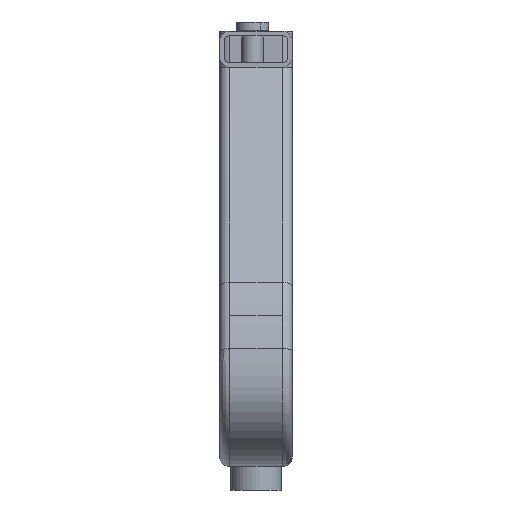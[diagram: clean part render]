
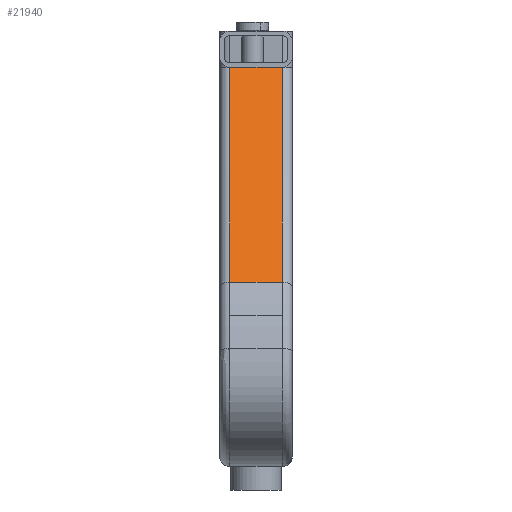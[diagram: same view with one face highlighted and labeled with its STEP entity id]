
A CAD part, left-side view. The second image highlights one B-rep face of the part: STEP entity #21940.
In plain terms, the highlighted planar face has unit normal (-0.887, 0, 0.462).
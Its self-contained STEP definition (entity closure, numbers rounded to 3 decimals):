
#13647=CARTESIAN_POINT('Vertex',(784.073,578.5,285.689)) ;
#13687=CARTESIAN_POINT('Line Origine',(845.645,578.5,403.967)) ;
#13691=CARTESIAN_POINT('Vertex',(845.868,578.5,404.395)) ;
#13743=CARTESIAN_POINT('Line Origine',(845.868,564.,404.395)) ;
#13747=CARTESIAN_POINT('Vertex',(845.868,549.5,404.395)) ;
#17653=CARTESIAN_POINT('Line Origine',(845.645,549.5,403.967)) ;
#17657=CARTESIAN_POINT('Vertex',(784.073,549.5,285.689)) ;
#21917=CARTESIAN_POINT('Line Origine',(784.073,584.,285.689)) ;
#21929=CARTESIAN_POINT('Axis2P3D Location',(845.868,584.,404.395)) ;
#13688=DIRECTION('Vector Direction',(-0.462,0.,-0.887)) ;
#13744=DIRECTION('Vector Direction',(0.,-1.,0.)) ;
#17654=DIRECTION('Vector Direction',(-0.462,0.,-0.887)) ;
#21918=DIRECTION('Vector Direction',(0.,-1.,0.)) ;
#21930=DIRECTION('Axis2P3D Direction',(0.887,0.,-0.462)) ;
#21931=DIRECTION('Axis2P3D XDirection',(0.,-1.,0.)) ;
#21932=AXIS2_PLACEMENT_3D('Plane Axis2P3D',#21929,#21930,#21931) ;
#21935=ORIENTED_EDGE('',*,*,#13749,.F.) ;
#21936=ORIENTED_EDGE('',*,*,#13693,.T.) ;
#21937=ORIENTED_EDGE('',*,*,#21921,.F.) ;
#21938=ORIENTED_EDGE('',*,*,#17659,.F.) ;
#13689=VECTOR('Line Direction',#13688,1.) ;
#13745=VECTOR('Line Direction',#13744,1.) ;
#17655=VECTOR('Line Direction',#17654,1.) ;
#21919=VECTOR('Line Direction',#21918,1.) ;
#21940=ADVANCED_FACE('\X2\51E04F554F53\X0\.9',(#21939),#21933,.F.) ;
#13693=EDGE_CURVE('',#13692,#13648,#13690,.T.) ;
#13749=EDGE_CURVE('',#13692,#13748,#13746,.T.) ;
#17659=EDGE_CURVE('',#13748,#17658,#17656,.T.) ;
#21921=EDGE_CURVE('',#17658,#13648,#21920,.F.) ;
#21934=EDGE_LOOP('',(#21935,#21936,#21937,#21938)) ;
#21939=FACE_OUTER_BOUND('',#21934,.T.) ;
#13690=LINE('Line',#13687,#13689) ;
#13746=LINE('Line',#13743,#13745) ;
#17656=LINE('Line',#17653,#17655) ;
#21920=LINE('Line',#21917,#21919) ;
#21933=PLANE('Plane',#21932) ;
#13648=VERTEX_POINT('',#13647) ;
#13692=VERTEX_POINT('',#13691) ;
#13748=VERTEX_POINT('',#13747) ;
#17658=VERTEX_POINT('',#17657) ;
